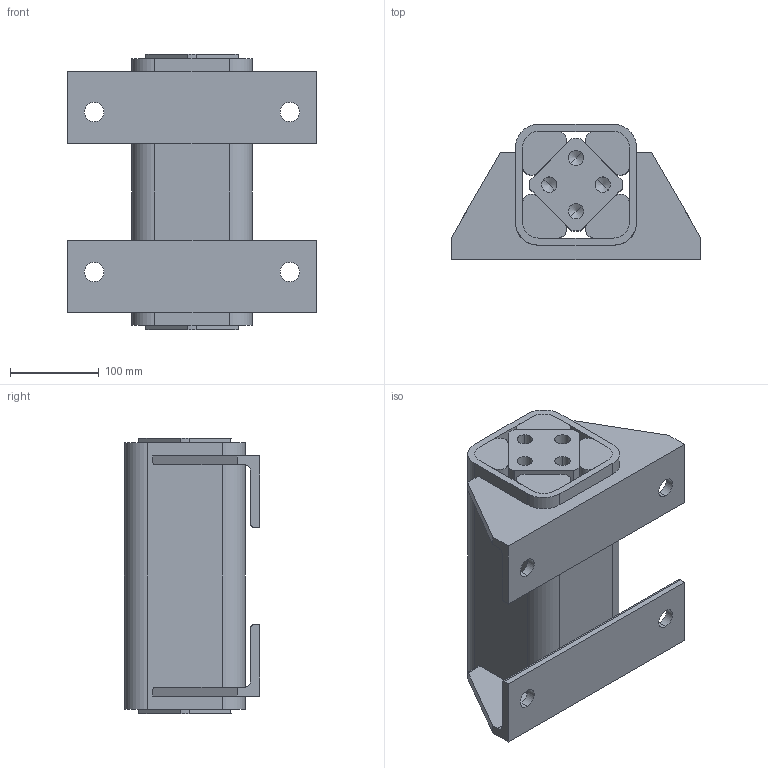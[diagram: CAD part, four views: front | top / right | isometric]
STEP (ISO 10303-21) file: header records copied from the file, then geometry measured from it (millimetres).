
FILE_DESCRIPTION((''),'2;1');
FILE_NAME('D:\ROSTA\Gummifederelemente\3D\DW-A80x300_01101008.stp','2005-02-11T06:25:01',('Administrator'),(''),'Autodesk Inventor 8','Autodesk Inventor 8','');
FILE_SCHEMA(('AUTOMOTIVE_DESIGN { 1 0 10303 214 1 1 1 1 }'));
Length unit declared in the file: millimetre
Products named in the file (5): Baugruppe8; 2.4.4813-006; 2.4.4813-007; 2.4.4813-008; 2.4.4813-009
Assembly tree (8 placements, depth 2):
  Baugruppe8
    2.4.4813-006
    2.4.4813-007
    2.4.4813-008  x2
    2.4.4813-009  x4
Bounding box: 280 x 152 x 310 mm (x, y, z)
Volume: 5722540.6 mm3; surface area: 776168.6 mm2
Topology: 8 solids, 8 shells, 142 faces, 362 edges, 228 vertices
Faces by surface type: plane 66, cylinder 44, bspline 32
Entity records: 3315 total; most frequent: CARTESIAN_POINT 1033, DIRECTION 451, ORIENTED_EDGE 446, EDGE_CURVE 223, AXIS2_PLACEMENT_3D 156, VERTEX_POINT 146, VECTOR 139, LINE 139
